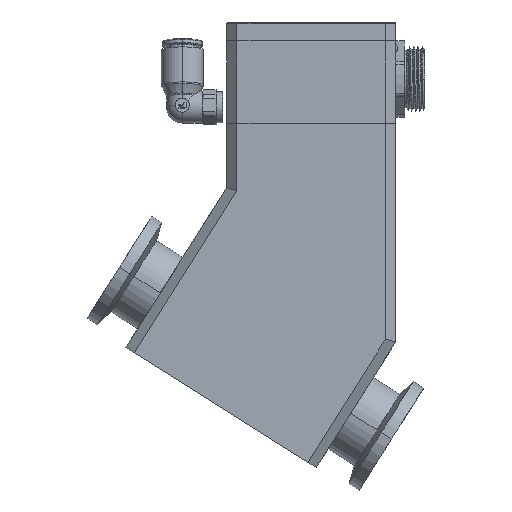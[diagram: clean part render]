
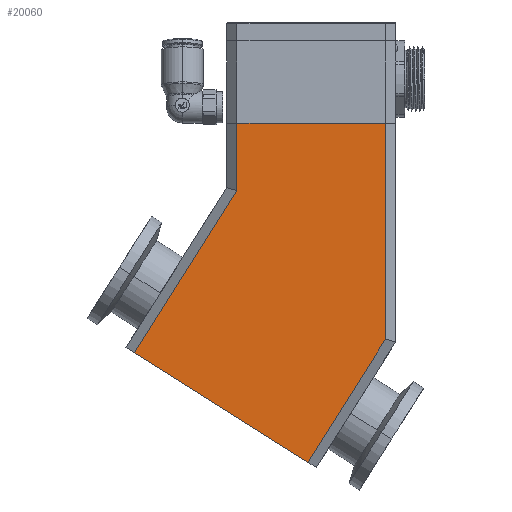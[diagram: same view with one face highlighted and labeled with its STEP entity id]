
A CAD part, front view. The second image highlights one B-rep face of the part: STEP entity #20060.
In plain terms, the highlighted planar face has unit normal (0, -1, 0).
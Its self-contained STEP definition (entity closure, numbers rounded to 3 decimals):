
#509 = CARTESIAN_POINT ( 'NONE',  ( -18.5, -21., 63. ) ) ;
#539 = EDGE_CURVE ( 'NONE', #40889, #17568, #8743, .T. ) ;
#1864 = CARTESIAN_POINT ( 'NONE',  ( 18.5, -21., 27.817 ) ) ;
#2023 = LINE ( 'NONE', #36601, #2539 ) ;
#2028 = CARTESIAN_POINT ( 'NONE',  ( 21.557, -21., 14.196 ) ) ;
#2539 = VECTOR ( 'NONE', #33791, 1000. ) ;
#3028 = PLANE ( 'NONE',  #34028 ) ;
#3610 = VECTOR ( 'NONE', #24057, 1000. ) ;
#4842 = VERTEX_POINT ( 'NONE', #509 ) ;
#5838 = VECTOR ( 'NONE', #33263, 1000. ) ;
#6252 = CARTESIAN_POINT ( 'NONE',  ( 0., -21., 27.817 ) ) ;
#8479 = EDGE_CURVE ( 'NONE', #25200, #40889, #17316, .T. ) ;
#8743 = LINE ( 'NONE', #1864, #9736 ) ;
#9694 = VECTOR ( 'NONE', #31755, 1000. ) ;
#9736 = VECTOR ( 'NONE', #30875, 1000. ) ;
#11028 = ORIENTED_EDGE ( 'NONE', *, *, #12147, .F. ) ;
#12096 = LINE ( 'NONE', #30503, #3610 ) ;
#12147 = EDGE_CURVE ( 'NONE', #4842, #17568, #12096, .T. ) ;
#13232 = VERTEX_POINT ( 'NONE', #35489 ) ;
#14275 = CARTESIAN_POINT ( 'NONE',  ( -0.877, -21., -21.311 ) ) ;
#17316 = LINE ( 'NONE', #2028, #5838 ) ;
#17568 = VERTEX_POINT ( 'NONE', #28763 ) ;
#17695 = LINE ( 'NONE', #25600, #9694 ) ;
#20060 = ADVANCED_FACE ( 'NONE', ( #28570 ), #3028, .F. ) ;
#20546 = ORIENTED_EDGE ( 'NONE', *, *, #31627, .F. ) ;
#22696 = DIRECTION ( 'NONE',  ( -0.845, 0., 0.534 ) ) ;
#24057 = DIRECTION ( 'NONE',  ( 1., 0., 0. ) ) ;
#25093 = ORIENTED_EDGE ( 'NONE', *, *, #26432, .T. ) ;
#25200 = VERTEX_POINT ( 'NONE', #14275 ) ;
#25423 = ORIENTED_EDGE ( 'NONE', *, *, #32736, .T. ) ;
#25600 = CARTESIAN_POINT ( 'NONE',  ( -18.5, -21., 27.817 ) ) ;
#26432 = EDGE_CURVE ( 'NONE', #4842, #35628, #17695, .T. ) ;
#27120 = CARTESIAN_POINT ( 'NONE',  ( -18.5, -21., 46.276 ) ) ;
#27543 = VECTOR ( 'NONE', #22696, 1000. ) ;
#28562 = DIRECTION ( 'NONE',  ( 0., 1., 0. ) ) ;
#28570 = FACE_OUTER_BOUND ( 'NONE', #38604, .T. ) ;
#28763 = CARTESIAN_POINT ( 'NONE',  ( 18.5, -21., 63. ) ) ;
#28848 = DIRECTION ( 'NONE',  ( -0.845, 0., 0.534 ) ) ;
#30503 = CARTESIAN_POINT ( 'NONE',  ( 21., -21., 63. ) ) ;
#30875 = DIRECTION ( 'NONE',  ( 0., 0., 1. ) ) ;
#31036 = LINE ( 'NONE', #31797, #27543 ) ;
#31580 = ORIENTED_EDGE ( 'NONE', *, *, #539, .T. ) ;
#31627 = EDGE_CURVE ( 'NONE', #25200, #13232, #31036, .T. ) ;
#31755 = DIRECTION ( 'NONE',  ( 0., 0., -1. ) ) ;
#31797 = CARTESIAN_POINT ( 'NONE',  ( 1.236, -21., -22.646 ) ) ;
#32736 = EDGE_CURVE ( 'NONE', #35628, #13232, #2023, .T. ) ;
#33043 = CARTESIAN_POINT ( 'NONE',  ( 18.5, -21., 9.357 ) ) ;
#33263 = DIRECTION ( 'NONE',  ( 0.534, 0., 0.845 ) ) ;
#33791 = DIRECTION ( 'NONE',  ( -0.534, 0., -0.845 ) ) ;
#34028 = AXIS2_PLACEMENT_3D ( 'NONE', #6252, #28562, #28848 ) ;
#35489 = CARTESIAN_POINT ( 'NONE',  ( -43.992, -21., 5.932 ) ) ;
#35628 = VERTEX_POINT ( 'NONE', #27120 ) ;
#36601 = CARTESIAN_POINT ( 'NONE',  ( -21.557, -21., 41.438 ) ) ;
#38604 = EDGE_LOOP ( 'NONE', ( #25093, #25423, #20546, #40812, #31580, #11028 ) ) ;
#40812 = ORIENTED_EDGE ( 'NONE', *, *, #8479, .T. ) ;
#40889 = VERTEX_POINT ( 'NONE', #33043 ) ;
